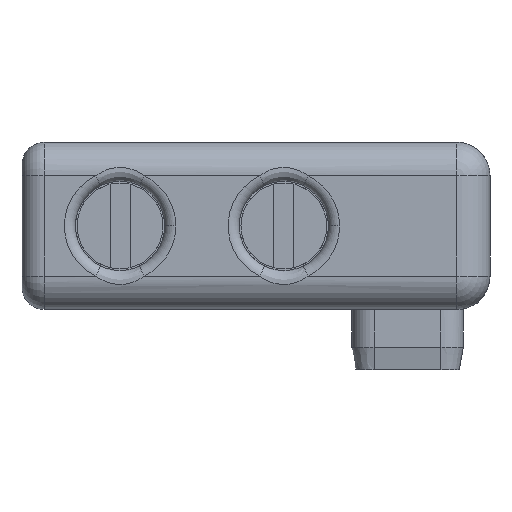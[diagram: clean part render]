
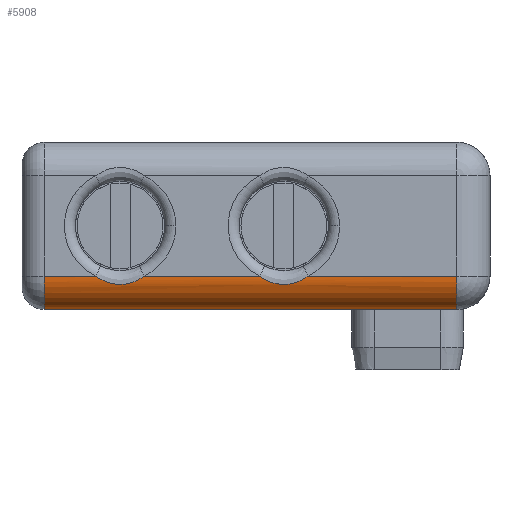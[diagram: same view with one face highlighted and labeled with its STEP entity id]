
A CAD part, front view. The second image highlights one B-rep face of the part: STEP entity #5908.
In plain terms, the highlighted cylindrical face has radius 1.5 mm (diameter 3 mm), a partial arc.
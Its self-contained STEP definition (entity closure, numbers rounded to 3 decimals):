
#43 = CARTESIAN_POINT ( 'NONE',  ( 8.66, -25.95, -6. ) ) ;
#74 = DIRECTION ( 'NONE',  ( 1., 0., 0. ) ) ;
#86 = CARTESIAN_POINT ( 'NONE',  ( 17.5, -25.95, -6. ) ) ;
#170 = CARTESIAN_POINT ( 'NONE',  ( 2.597, -25.902, -6.375 ) ) ;
#431 = CARTESIAN_POINT ( 'NONE',  ( 9.558, -25.902, -6.375 ) ) ;
#464 = CARTESIAN_POINT ( 'NONE',  ( 8.991, -25.937, -6.209 ) ) ;
#504 = CARTESIAN_POINT ( 'NONE',  ( 10.84, -25.95, -6. ) ) ;
#582 = EDGE_CURVE ( 'NONE', #2223, #1438, #1426, .T. ) ;
#754 = CARTESIAN_POINT ( 'NONE',  ( 19., -25.95, -6. ) ) ;
#758 = EDGE_CURVE ( 'NONE', #3389, #4715, #3746, .T. ) ;
#824 = ORIENTED_EDGE ( 'NONE', *, *, #2370, .F. ) ;
#942 = CARTESIAN_POINT ( 'NONE',  ( 0., -24.45, -6. ) ) ;
#946 = VERTEX_POINT ( 'NONE', #2813 ) ;
#1019 = ORIENTED_EDGE ( 'NONE', *, *, #582, .T. ) ;
#1250 = CARTESIAN_POINT ( 'NONE',  ( 2.795, -25.913, -6.339 ) ) ;
#1292 = CARTESIAN_POINT ( 'NONE',  ( 2.011, -25.912, -6.34 ) ) ;
#1298 = DIRECTION ( 'NONE',  ( 1., 0., 0. ) ) ;
#1426 = B_SPLINE_CURVE_WITH_KNOTS ( 'NONE', 3,
 ( #5952, #5373, #2176, #1250, #170, #3496, #1292, #6631, #4002, #3919 ),
 .UNSPECIFIED., .F., .F.,
 ( 4, 2, 2, 2, 4 ),
 ( 0., 0.001, 0.001, 0.002, 0.002 ),
 .UNSPECIFIED. ) ;
#1438 = VERTEX_POINT ( 'NONE', #4255 ) ;
#1458 = ORIENTED_EDGE ( 'NONE', *, *, #5232, .F. ) ;
#1996 = VERTEX_POINT ( 'NONE', #43 ) ;
#2104 = DIRECTION ( 'NONE',  ( -1., 0., 0. ) ) ;
#2114 = AXIS2_PLACEMENT_3D ( 'NONE', #6453, #74, #4357 ) ;
#2176 = CARTESIAN_POINT ( 'NONE',  ( 3.16, -25.937, -6.208 ) ) ;
#2223 = VERTEX_POINT ( 'NONE', #4867 ) ;
#2235 = CIRCLE ( 'NONE', #2114, 1.5 ) ;
#2244 = CARTESIAN_POINT ( 'NONE',  ( -1., -24.45, -7.5 ) ) ;
#2320 = CYLINDRICAL_SURFACE ( 'NONE', #2553, 1.5 ) ;
#2370 = EDGE_CURVE ( 'NONE', #2223, #1996, #5033, .T. ) ;
#2416 = CIRCLE ( 'NONE', #5651, 1.5 ) ;
#2553 = AXIS2_PLACEMENT_3D ( 'NONE', #942, #6120, #4506 ) ;
#2660 = CARTESIAN_POINT ( 'NONE',  ( 9.947, -25.902, -6.375 ) ) ;
#2661 = VERTEX_POINT ( 'NONE', #2244 ) ;
#2813 = CARTESIAN_POINT ( 'NONE',  ( -1., -25.95, -6. ) ) ;
#2845 = VECTOR ( 'NONE', #1298, 1000. ) ;
#2879 = CARTESIAN_POINT ( 'NONE',  ( 17.5, -24.45, -7.5 ) ) ;
#2880 = FACE_OUTER_BOUND ( 'NONE', #5718, .T. ) ;
#3030 = DIRECTION ( 'NONE',  ( 0., 0., -1. ) ) ;
#3042 = VECTOR ( 'NONE', #6455, 1000. ) ;
#3049 = ORIENTED_EDGE ( 'NONE', *, *, #3271, .T. ) ;
#3103 = LINE ( 'NONE', #6367, #6297 ) ;
#3230 = EDGE_CURVE ( 'NONE', #4372, #2661, #5863, .T. ) ;
#3241 = VECTOR ( 'NONE', #2104, 1000. ) ;
#3271 = EDGE_CURVE ( 'NONE', #946, #2661, #2235, .T. ) ;
#3328 = CARTESIAN_POINT ( 'NONE',  ( 19., -25.95, -6. ) ) ;
#3389 = VERTEX_POINT ( 'NONE', #4466 ) ;
#3496 = CARTESIAN_POINT ( 'NONE',  ( 2.208, -25.902, -6.375 ) ) ;
#3640 = CARTESIAN_POINT ( 'NONE',  ( 10.145, -25.913, -6.339 ) ) ;
#3641 = CARTESIAN_POINT ( 'NONE',  ( -1., -24.45, -7.5 ) ) ;
#3746 = LINE ( 'NONE', #3328, #3042 ) ;
#3919 = CARTESIAN_POINT ( 'NONE',  ( 1.31, -25.95, -6. ) ) ;
#4002 = CARTESIAN_POINT ( 'NONE',  ( 1.47, -25.95, -6.116 ) ) ;
#4186 = CARTESIAN_POINT ( 'NONE',  ( 10.68, -25.95, -6.116 ) ) ;
#4255 = CARTESIAN_POINT ( 'NONE',  ( 1.31, -25.95, -6. ) ) ;
#4357 = DIRECTION ( 'NONE',  ( 0., 0., 1. ) ) ;
#4372 = VERTEX_POINT ( 'NONE', #2879 ) ;
#4466 = CARTESIAN_POINT ( 'NONE',  ( 10.84, -25.95, -6. ) ) ;
#4506 = DIRECTION ( 'NONE',  ( 0., 0., 1. ) ) ;
#4599 = EDGE_CURVE ( 'NONE', #946, #1438, #3103, .T. ) ;
#4715 = VERTEX_POINT ( 'NONE', #86 ) ;
#4792 = CARTESIAN_POINT ( 'NONE',  ( 8.82, -25.95, -6.116 ) ) ;
#4844 = DIRECTION ( 'NONE',  ( 1., 0., 0. ) ) ;
#4867 = CARTESIAN_POINT ( 'NONE',  ( 3.49, -25.95, -6. ) ) ;
#4881 = B_SPLINE_CURVE_WITH_KNOTS ( 'NONE', 3,
 ( #504, #4186, #5248, #3640, #2660, #431, #6813, #464, #4792, #5791 ),
 .UNSPECIFIED., .F., .F.,
 ( 4, 2, 2, 2, 4 ),
 ( 0., 0.001, 0.001, 0.002, 0.002 ),
 .UNSPECIFIED. ) ;
#5033 = LINE ( 'NONE', #754, #2845 ) ;
#5232 = EDGE_CURVE ( 'NONE', #4715, #4372, #2416, .T. ) ;
#5248 = CARTESIAN_POINT ( 'NONE',  ( 10.51, -25.937, -6.208 ) ) ;
#5274 = CARTESIAN_POINT ( 'NONE',  ( 17.5, -24.45, -6. ) ) ;
#5373 = CARTESIAN_POINT ( 'NONE',  ( 3.33, -25.95, -6.116 ) ) ;
#5651 = AXIS2_PLACEMENT_3D ( 'NONE', #5274, #6775, #3030 ) ;
#5682 = ORIENTED_EDGE ( 'NONE', *, *, #4599, .F. ) ;
#5718 = EDGE_LOOP ( 'NONE', ( #5785, #6907, #824, #1019, #5682, #3049, #6448, #1458 ) ) ;
#5785 = ORIENTED_EDGE ( 'NONE', *, *, #758, .F. ) ;
#5791 = CARTESIAN_POINT ( 'NONE',  ( 8.66, -25.95, -6. ) ) ;
#5863 = LINE ( 'NONE', #3641, #3241 ) ;
#5908 = ADVANCED_FACE ( 'NONE', ( #2880 ), #2320, .T. ) ;
#5952 = CARTESIAN_POINT ( 'NONE',  ( 3.49, -25.95, -6. ) ) ;
#6120 = DIRECTION ( 'NONE',  ( -1., 0., 0. ) ) ;
#6297 = VECTOR ( 'NONE', #4844, 1000. ) ;
#6367 = CARTESIAN_POINT ( 'NONE',  ( 19., -25.95, -6. ) ) ;
#6385 = EDGE_CURVE ( 'NONE', #3389, #1996, #4881, .T. ) ;
#6448 = ORIENTED_EDGE ( 'NONE', *, *, #3230, .F. ) ;
#6453 = CARTESIAN_POINT ( 'NONE',  ( -1., -24.45, -6. ) ) ;
#6455 = DIRECTION ( 'NONE',  ( 1., 0., 0. ) ) ;
#6631 = CARTESIAN_POINT ( 'NONE',  ( 1.641, -25.937, -6.209 ) ) ;
#6775 = DIRECTION ( 'NONE',  ( 1., 0., 0. ) ) ;
#6813 = CARTESIAN_POINT ( 'NONE',  ( 9.361, -25.912, -6.34 ) ) ;
#6907 = ORIENTED_EDGE ( 'NONE', *, *, #6385, .T. ) ;
